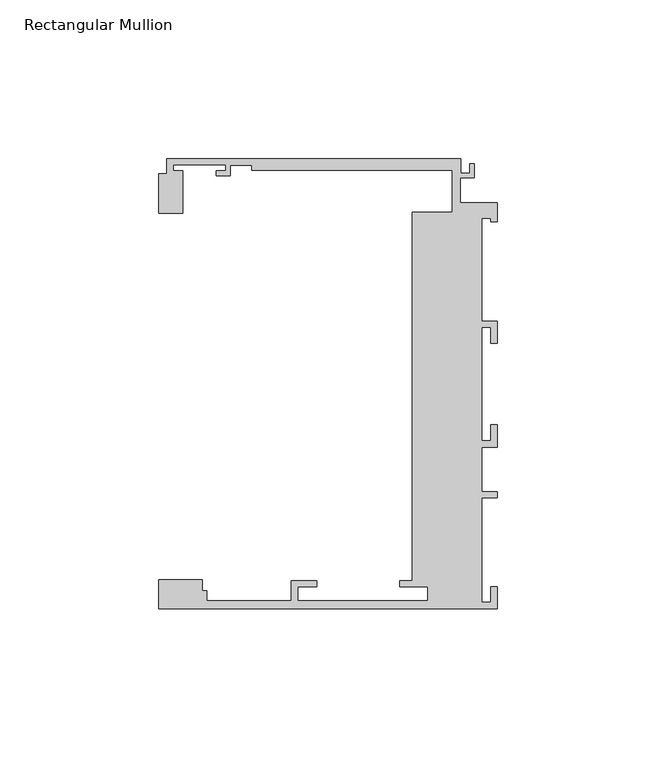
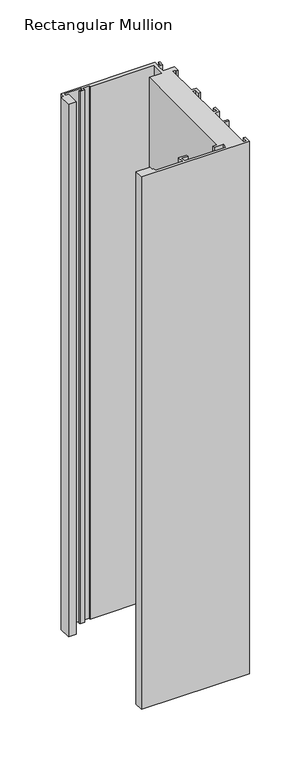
"""IFC4 building model written with IfcOpenShell, lengths in millimetres: member geometry, Rectangular Mullion : Danpal_K12_End-Mullion_B1."""

from ifc_helpers import new_model, si_unit, frame, origin, place, context, project, spatial, polyline, outline, extrude, source, transform, mapped, element, save


def rectangular_mullion_28affbc6(model_context):
    return source(origin(), model_context, "Body", "SweptSolid", [
        extrude(outline(polyline([(-26.6209612, -117.8676658), (-26.6209612, -1.9446289), (-14.1055875, -1.9446289), (-14.1055875, 11.3051512), (-77.1531178, 11.3051512), (-77.1531178, 12.8051513), (-83.8999976, 12.8051513), (-83.8999976, 9.5051512), (-88.3999976, 9.5051512), (-88.3999976, 11.0051513), (-85.3999976, 11.0051513), (-85.3999976, 13.0051512), (-101.8999976, 13.0051512), (-101.8999976, 11.0051513), (-98.8999976, 11.0051513), (-98.8999976, -2.316674), (-106.4117426, -2.316674), (-106.4117426, 10.065304), (-103.8999976, 10.065304), (-103.8999976, 14.8051514), (-11.4019537, 14.8051514), (-11.4019537, 10.3006425), (-8.6518595, 10.3006425), (-8.6518595, 13.3051514), (-7.1518595, 13.3051514), (-7.1518595, 8.8006425), (-11.6055875, 8.8006425), (-11.6055875, 1.0551514), (0.0, 1.0551514), (0.0, -4.9448486), (-2.0, -4.9448486), (-2.0, -3.9448486), (-4.8, -3.9448486), (-4.8, -36.2443486), (0.0, -36.2443486), (0.0, -43.2443486), (-2.0, -43.2443486), (-2.0, -38.2443486), (-4.8, -38.2443486), (-4.8, -73.8676657), (-2.0, -73.8676657), (-2.0, -68.8676657), (0.0, -68.8676657), (0.0, -75.867683), (-4.8, -75.867683), (-4.8, -89.8676485), (0.0, -89.8676485), (0.0, -91.8676485), (-4.8, -91.8676485), (-4.8, -124.7676657), (-2.0, -124.7676657), (-2.0, -119.7676657), (0.0, -119.7676657), (0.0, -126.7676657), (-106.4117426, -126.7676657), (-106.4117426, -117.6986749), (-92.8228167, -117.6986749), (-92.8228167, -121.0676175), (-91.2900275, -121.0676175), (-91.2900275, -124.2676658), (-64.7350275, -124.2676658), (-64.7350275, -117.8676658), (-56.7350275, -117.8676658), (-56.7350275, -119.8676658), (-62.7350275, -119.8676658), (-62.7350275, -124.2676658), (-21.835, -124.2676658), (-21.835, -119.8676658), (-30.6, -119.8676658), (-30.6, -117.8676658), (-26.6209612, -117.8676658)])), frame((0.0, 0.0, -554.2059038), z_axis=(0.0, 0.0, 1.0), x_axis=(1.0, 0.0, 0.0)), (0.0, 0.0, 1.0), 554.2059038),
    ])


if __name__ == "__main__":
    model = new_model("IFC4")
    model_context = context("Model", 3, world=origin())
    ifc_project = project(units=[si_unit("LENGTHUNIT", "METRE", prefix="MILLI")], contexts=[model_context])
    site = spatial("IfcSite", under=ifc_project)
    building = spatial("IfcBuilding", under=site)
    placement = place(None, origin())
    rectangular_mullion_shape = rectangular_mullion_28affbc6(model_context)
    element("IfcMember", 1, ObjectType="Rectangular Mullion : Danpal_K12_End-Mullion_B1", at=placement, inside=building, context=model_context, shape_type="MappedRepresentation", body=[
        mapped(rectangular_mullion_shape, transform((0.0, 0.0, 0.0), x_axis=(1.0, 0.0, 0.0), y_axis=(0.0, 1.0, 0.0), z_axis=(0.0, 0.0, 1.0))),
    ])
    save(model, "model.ifc")
